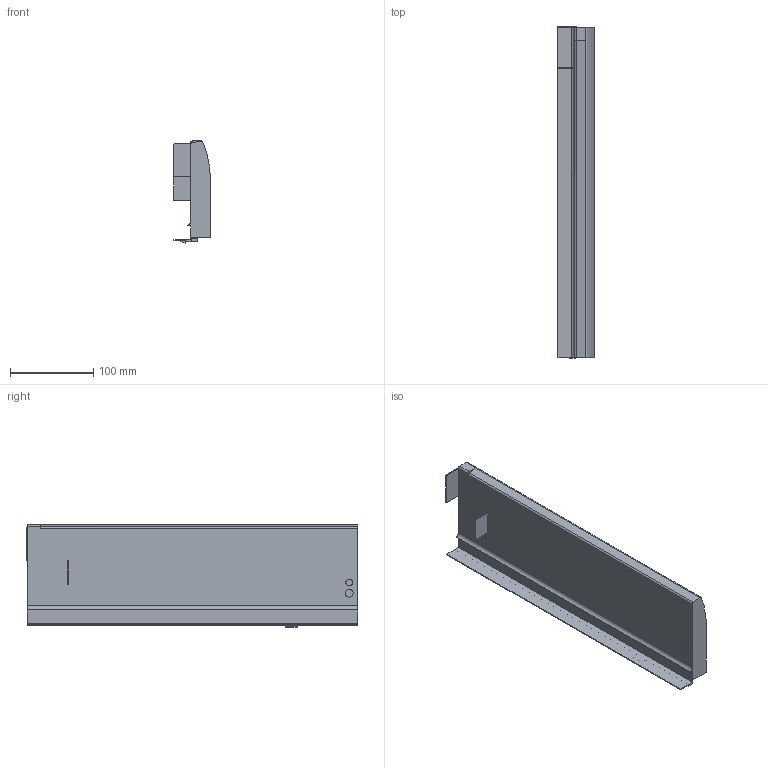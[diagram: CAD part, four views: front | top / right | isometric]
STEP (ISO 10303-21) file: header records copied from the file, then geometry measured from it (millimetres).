
FILE_DESCRIPTION (( 'STEP AP214' ), '1' );
FILE_NAME ('_IMOS_NOVA-Pro_Dekor-H122_DL_NL400_RE.step', '2010-07-14T11:01:54', ( 'grass' ), ( '' ), 'SwSTEP 2.0', 'SolidWorks 2010', '' );
FILE_SCHEMA (( 'AUTOMOTIVE_DESIGN' ));
Length unit declared in the file: millimetre
Products named in the file (1): _IMOS_NOVA-Pro_Dekor-H122_DL_NL400_RE
Bounding box: 44.3 x 398.45 x 122.49 mm (x, y, z)
Volume: 736832.7 mm3; surface area: 164828.4 mm2
Topology: 1 solids, 1 shells, 74 faces, 204 edges, 136 vertices
Faces by surface type: plane 52, cylinder 21, bspline 1
Entity records: 2390 total; most frequent: CARTESIAN_POINT 428, ORIENTED_EDGE 408, DIRECTION 395, EDGE_CURVE 204, LINE 157, VECTOR 157, VERTEX_POINT 136, AXIS2_PLACEMENT_3D 119
